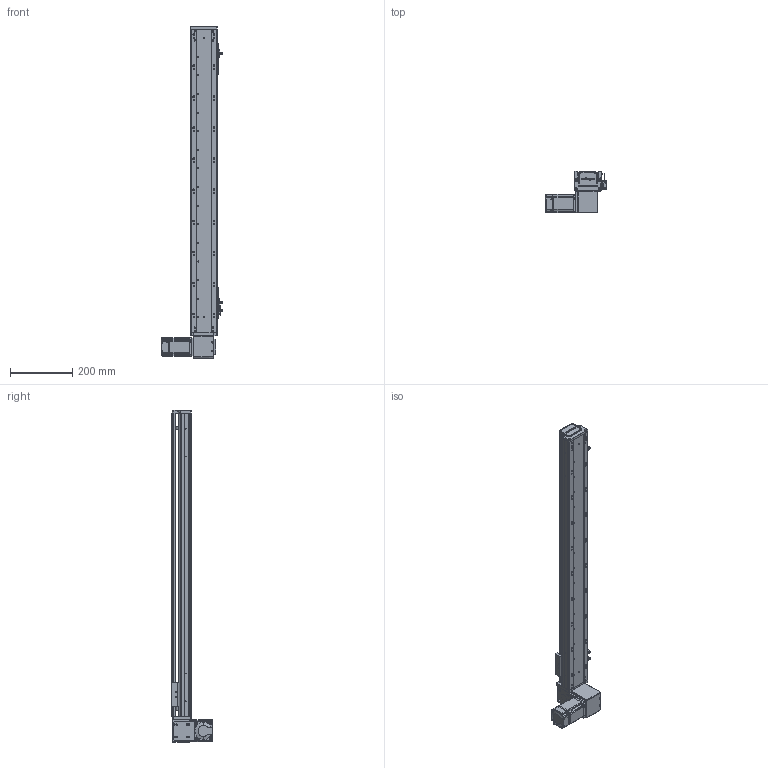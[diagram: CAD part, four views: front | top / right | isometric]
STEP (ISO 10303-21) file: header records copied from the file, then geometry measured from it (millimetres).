
FILE_DESCRIPTION (( 'STEP AP203' ), '1' );
FILE_NAME ('RY80-T-300-DL.SLDASM_800.step', '2021-03-01T01:38:16', ( '盈信电脑' ), ( '东莞市道滘镇水果街19号' ), 'SwSTEP 2.0', 'SolidWorks 2012', '' );
FILE_SCHEMA (( 'CONFIG_CONTROL_DESIGN' ));
Products named in the file (19): RY80-T-300-DL.SLDASM_800; RY100-T粣創揤踡裔; RY80-T肮祭謫狟殏俋欶; 1; RY80-T-上下折同步轮盖板; RY80-T-M4蹟翐3; RY80-T萇儂假蚾啣; 滅袉蝶18-10; RY80-T翋肮祭謫裔啣; RY80-T肮祭湍揤輸2; RY80-T-翋肮祭謫釱; RY80俋离覜茼え; 覜茼ん672; RY80-T肮祭湍揤輸1; 672嫖萇羲壽假蚾釱; RY80-T-300-DL倰第奻裔啣_800; RY80-T綴裔啣; RY80-T-300-DL倰第菁釱_800; RY80-T肮祭謫臏賑輸
Assembly tree (24 placements, depth 2):
  RY80-T-300-DL.SLDASM_800
    RY80-T-300-DL倰第菁釱_800
    RY80-T肮祭謫臏賑輸
    RY80-T-300-DL倰第奻裔啣_800
    RY80-T綴裔啣
    672嫖萇羲壽假蚾釱  x2
    覜茼ん672  x3
    RY80俋离覜茼え
    RY80-T-翋肮祭謫釱
    RY80-T肮祭湍揤輸1
    RY80-T肮祭湍揤輸2
    RY80-T萇儂假蚾啣
    RY80-T翋肮祭謫裔啣  x2
    滅袉蝶18-10  x2
    1
    RY80-T肮祭謫狟殏俋欶
    RY80-T-M4蹟翐3  x2
    RY80-T-上下折同步轮盖板
    RY100-T粣創揤踡裔
Bounding box: 198.7 x 134.5 x 1070 mm (x, y, z)
Volume: 1922682.8 mm3; surface area: 808442.3 mm2
Topology: 24 solids, 24 shells, 2597 faces, 7185 edges, 4667 vertices
Faces by surface type: plane 1367, cylinder 1023, cone 151, bspline 56
Entity records: 82757 total; most frequent: CARTESIAN_POINT 20784, ORIENTED_EDGE 12814, DIRECTION 11906, EDGE_CURVE 6407, VERTEX_POINT 4208, AXIS2_PLACEMENT_3D 4026, LINE 3854, VECTOR 3854
